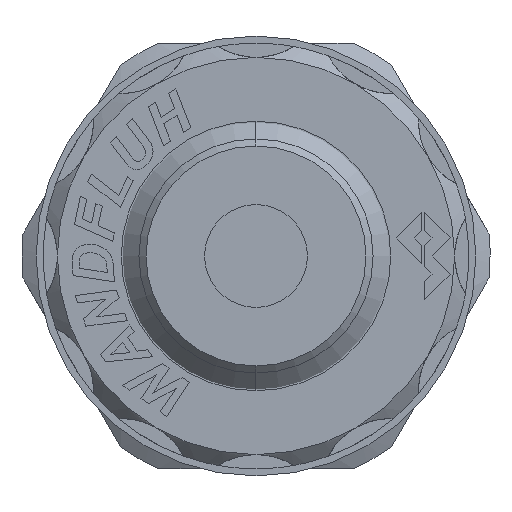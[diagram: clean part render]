
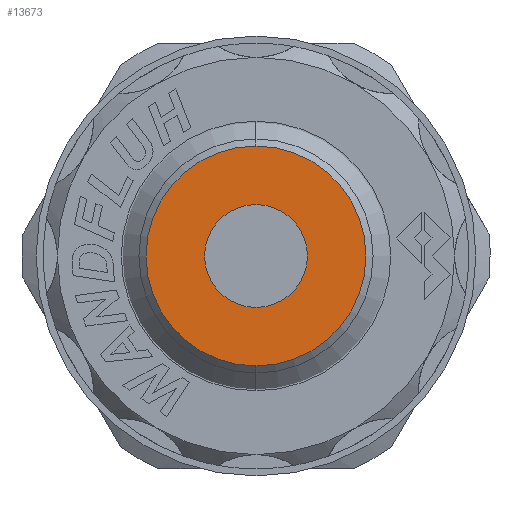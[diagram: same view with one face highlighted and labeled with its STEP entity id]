
A CAD part, left-side view. The second image highlights one B-rep face of the part: STEP entity #13673.
In plain terms, the highlighted planar face has unit normal (-1, 0, 0).
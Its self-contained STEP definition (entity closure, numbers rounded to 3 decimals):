
#2646 = CARTESIAN_POINT ( 'NONE',  ( -70.9, 0., 7.75 ) ) ;
#2900 = CARTESIAN_POINT ( 'NONE',  ( -70.9, 0., 3.625 ) ) ;
#2962 = CARTESIAN_POINT ( 'NONE',  ( -70.9, 0., -7.75 ) ) ;
#3862 = DIRECTION ( 'NONE',  ( 0., 0., -1. ) ) ;
#3863 = DIRECTION ( 'NONE',  ( -1., 0., 0. ) ) ;
#3864 = CARTESIAN_POINT ( 'NONE',  ( -70.9, 0., 0. ) ) ;
#4663 = CARTESIAN_POINT ( 'NONE',  ( -70.9, 0., -3.625 ) ) ;
#5153 = CARTESIAN_POINT ( 'NONE',  ( -70.9, 0., 0. ) ) ;
#5154 = DIRECTION ( 'NONE',  ( -1., 0., 0. ) ) ;
#5155 = DIRECTION ( 'NONE',  ( 0., 0., -1. ) ) ;
#5636 = EDGE_CURVE ( 'NONE', #10041, #17389, #19697, .T. ) ;
#6943 = EDGE_CURVE ( 'NONE', #9659, #11610, #20685, .T. ) ;
#6980 = EDGE_CURVE ( 'NONE', #17389, #10041, #20866, .T. ) ;
#7130 = AXIS2_PLACEMENT_3D ( 'NONE', #3864, #3863, #3862 ) ;
#7697 = AXIS2_PLACEMENT_3D ( 'NONE', #22658, #22659, #22660 ) ;
#7720 = AXIS2_PLACEMENT_3D ( 'NONE', #22710, #22711, #22712 ) ;
#8553 = CIRCLE ( 'NONE', #14535, 7.75 ) ;
#9659 = VERTEX_POINT ( 'NONE', #2646 ) ;
#10041 = VERTEX_POINT ( 'NONE', #2900 ) ;
#11610 = VERTEX_POINT ( 'NONE', #2962 ) ;
#12386 = AXIS2_PLACEMENT_3D ( 'NONE', #19174, #19175, #19176 ) ;
#13673 = ADVANCED_FACE ( 'NONE', ( #17899, #17903 ), #19167, .T. ) ;
#14535 = AXIS2_PLACEMENT_3D ( 'NONE', #5153, #5154, #5155 ) ;
#16512 = EDGE_LOOP ( 'NONE', ( #18102, #18068 ) ) ;
#16545 = EDGE_LOOP ( 'NONE', ( #18098, #18096 ) ) ;
#17389 = VERTEX_POINT ( 'NONE', #4663 ) ;
#17899 = FACE_OUTER_BOUND ( 'NONE', #16512, .T. ) ;
#17903 = FACE_BOUND ( 'NONE', #16545, .T. ) ;
#17978 = EDGE_CURVE ( 'NONE', #11610, #9659, #8553, .T. ) ;
#18068 = ORIENTED_EDGE ( 'NONE', *, *, #17978, .T. ) ;
#18096 = ORIENTED_EDGE ( 'NONE', *, *, #5636, .F. ) ;
#18098 = ORIENTED_EDGE ( 'NONE', *, *, #6980, .F. ) ;
#18102 = ORIENTED_EDGE ( 'NONE', *, *, #6943, .T. ) ;
#19167 = PLANE ( 'NONE',  #12386 ) ;
#19174 = CARTESIAN_POINT ( 'NONE',  ( -70.9, -3.625, 0. ) ) ;
#19175 = DIRECTION ( 'NONE',  ( -1., 0., 0. ) ) ;
#19176 = DIRECTION ( 'NONE',  ( 0., 0., -1. ) ) ;
#19697 = CIRCLE ( 'NONE', #7130, 3.625 ) ;
#20685 = CIRCLE ( 'NONE', #7697, 7.75 ) ;
#20866 = CIRCLE ( 'NONE', #7720, 3.625 ) ;
#22658 = CARTESIAN_POINT ( 'NONE',  ( -70.9, 0., 0. ) ) ;
#22659 = DIRECTION ( 'NONE',  ( -1., 0., 0. ) ) ;
#22660 = DIRECTION ( 'NONE',  ( 0., 0., -1. ) ) ;
#22710 = CARTESIAN_POINT ( 'NONE',  ( -70.9, 0., 0. ) ) ;
#22711 = DIRECTION ( 'NONE',  ( -1., 0., 0. ) ) ;
#22712 = DIRECTION ( 'NONE',  ( 0., 0., -1. ) ) ;
